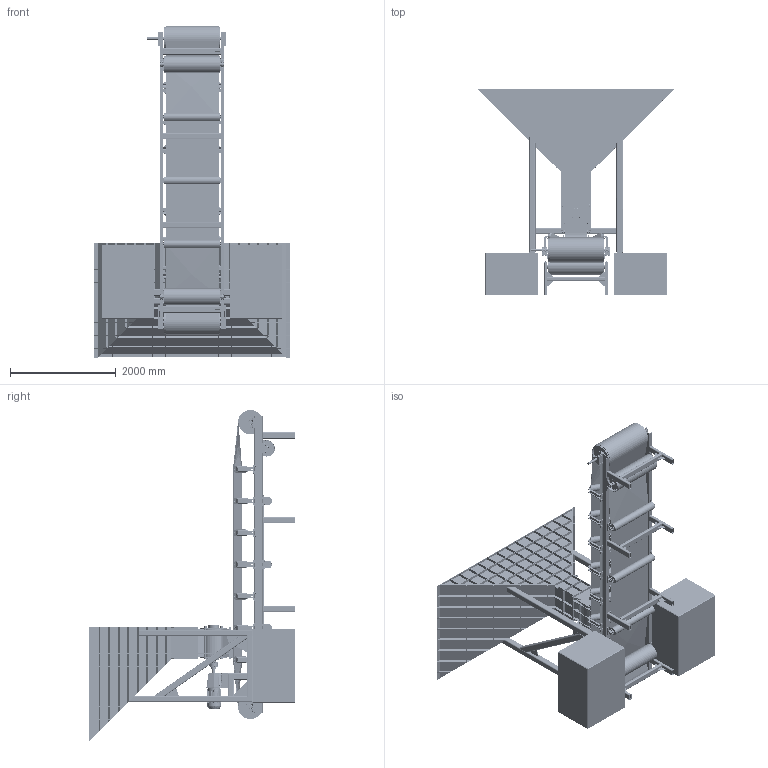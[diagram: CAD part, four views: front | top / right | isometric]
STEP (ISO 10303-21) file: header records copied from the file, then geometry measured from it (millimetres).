
FILE_DESCRIPTION(/* description */ (''),/* implementation_level */ '2;1');
FILE_NAME(/* name */ 'beltconveyor_a106_w1050_l5200.stp',/* time_stamp */ '2025-01-06T23:08:56+08:00',/* author */ (''),/* organization */ (''),/* preprocessor_version */ 'ST-DEVELOPER v16.7',/* originating_system */ 'SIEMENS PLM Software NX 12.0',/* authorisation */ '');
FILE_SCHEMA (('AUTOMOTIVE_DESIGN { 1 0 10303 214 3 1 1 1 }'));
Products named in the file (83): Dr1; Dr2; DRV2; DRV1; ShRB; OD1; roll; ShRB3; rollC; Roll1050SD; M10_0_imbus; KyFszF; Sh45_2; M12_20; rollB; M14_5imbus; KyFsz; Sh45; OD2; 6205 2RS; roll2; Z間er_I52_DIN472; ShRB2; MB1; Gearbox; W2; W1; Belt; M27_; DrfB_Default_As Machined_; DRF1a_Default_As Machined_; WedgeWasher2; Akep; M12_nut; UCP209; M18_50; UCP208; WedgeWasher3; WedgeWasher; M12_45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
Assembly tree (497 placements, depth 5):
  beltconveyor_a106_w1050_l5200
    grill
    MirrorF2
    F1
    星型卸料阀
      M36washer  x8
      M36NUT  x8
      RB2  x2
      M16 nut  x20
      SEAL50  x4
      M20nut  x9
      S1
      M20imbus_TM60  x8
      CPB  x10
      M20Limbus_DIN7984  x9
      6010_2RS  x6
      M20 al醫閠  x9
      M16 al醫閠  x20
      CU1
      SH1
      SSh  x2
      Base
      CU2
      R363  x4
      RB1  x2
      AssemW
        W1
        W2  x5
      GB1
        M20imbus_TM60  x4
        Gearbox
        MB1
    M24washer  x2
    M24SNut  x2
    F2
    CON''''  x2
    BCAssem
      M18NUTDIN934ISO4032  x24
      WedgeWasher4  x12
      M12_45  x40
      WedgeWasher  x8
      Roll1050  x3
        ShRB2
        Z間er_I52_DIN472
        roll2
        6205 2RS
        OD2
      WedgeWasher3  x28
      UCP208  x6
      M18_50  x24
      UCP209  x8
      M12_nut  x40
      CRollAssem1  x7
        Roll350
          Z間er_I52_DIN472  x2
          roll
          6205 2RS  x2
          OD1  x2
          ShRB
        DrfRoll
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Bounding box: 3705.52 x 3902.5 x 6278.1 mm (x, y, z)
Volume: 3157870800.3 mm3; surface area: 183658235.8 mm2
Topology: 892 solids, 896 shells, 51487 faces, 123532 edges, 72833 vertices
Faces by surface type: plane 16639, cylinder 13633, cone 7540, bspline 5158, sphere 4236, torus 3789, extrusion 492
Entity records: 415959 total; most frequent: CARTESIAN_POINT 138394, ORIENTED_EDGE 58192, DIRECTION 51583, EDGE_CURVE 29096, VECTOR 20773, LINE 20281, VERTEX_POINT 18881, AXIS2_PLACEMENT_3D 15405
